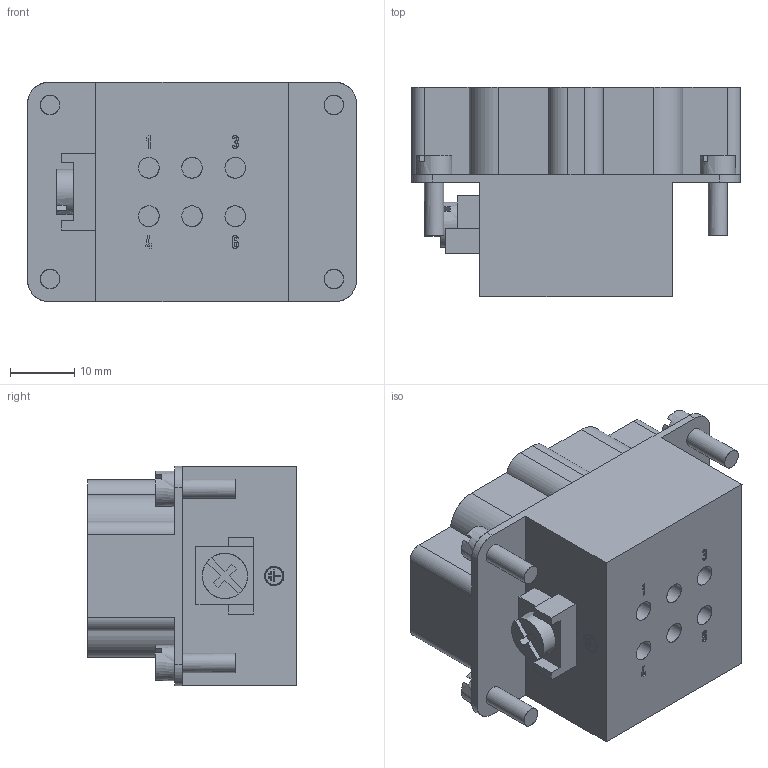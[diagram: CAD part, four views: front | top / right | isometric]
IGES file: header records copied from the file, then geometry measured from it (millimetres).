
Start section: VISI Layer Mapping Iges    VISI  0      LAYER0  1      WARNINGS
Global section: file name: G:\Produktkommunikation\Support\CD-Online-Katalog\3D Daten Produkte\E2702\E2702_6B.igs; native system: VISI 20.0; preprocessor: 2.0; author: nus; organization: Unknown; date: 20130402.120919; units: millimetre
Bounding box: 51 x 32.41 x 34 mm (x, y, z)
Surface area: 11592.7 mm2 (no closed solid volume)
Topology: 0 solids, 0 shells, 309 faces, 2500 edges, 2467 vertices
Faces by surface type: bspline 309
